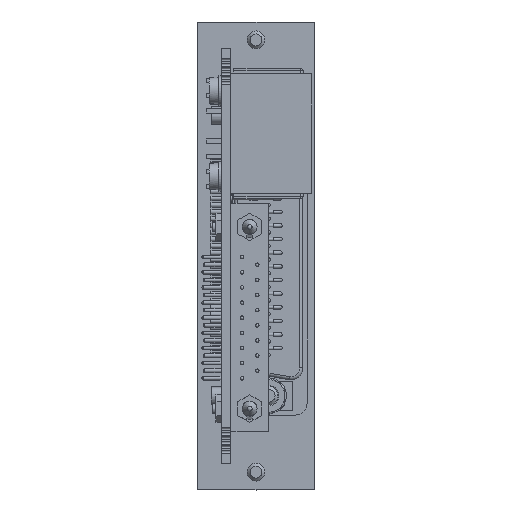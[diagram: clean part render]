
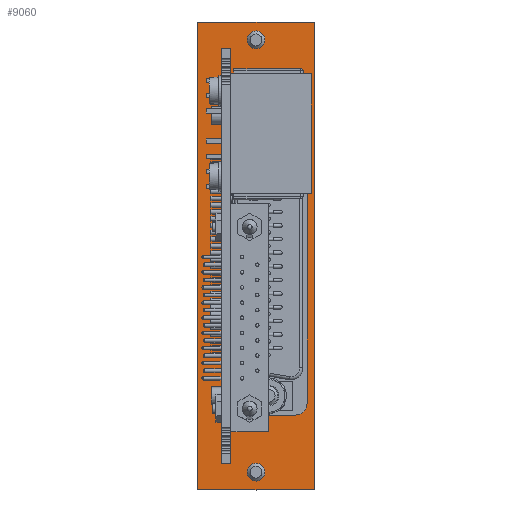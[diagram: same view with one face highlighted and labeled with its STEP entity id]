
A CAD part, front view. The second image highlights one B-rep face of the part: STEP entity #9060.
In plain terms, the highlighted planar face has unit normal (0, -1, 0).
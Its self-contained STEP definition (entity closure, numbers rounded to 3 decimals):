
#9060=ADVANCED_FACE('',(#23295,#23297,#23299,#23301),#23303,.F.);
#23295=FACE_BOUND('',#23296,.T.);
#23296=EDGE_LOOP('',(#34569,#34570,#34571,#34572));
#23297=FACE_BOUND('',#23298,.T.);
#23298=EDGE_LOOP('',(#34573,#34574,#34575,#34576,#34577,#34578,#34579,#34580));
#23299=FACE_BOUND('',#23300,.T.);
#23300=EDGE_LOOP('',(#34581));
#23301=FACE_BOUND('',#23302,.T.);
#23302=EDGE_LOOP('',(#34582));
#23303=PLANE('',#23304);
#23304=AXIS2_PLACEMENT_3D('',#23305,#23306,#23307);
#23305=CARTESIAN_POINT('',(0.,0.,0.));
#23306=DIRECTION('',(0.,1.,0.));
#23307=DIRECTION('',(-1.,0.,0.));
#34569=ORIENTED_EDGE('',*,*,#39264,.F.);
#34570=ORIENTED_EDGE('',*,*,#39272,.F.);
#34571=ORIENTED_EDGE('',*,*,#39269,.F.);
#34572=ORIENTED_EDGE('',*,*,#39267,.F.);
#34573=ORIENTED_EDGE('',*,*,#40312,.F.);
#34574=ORIENTED_EDGE('',*,*,#40313,.F.);
#34575=ORIENTED_EDGE('',*,*,#40314,.F.);
#34576=ORIENTED_EDGE('',*,*,#40315,.F.);
#34577=ORIENTED_EDGE('',*,*,#40316,.F.);
#34578=ORIENTED_EDGE('',*,*,#40317,.F.);
#34579=ORIENTED_EDGE('',*,*,#40318,.F.);
#34580=ORIENTED_EDGE('',*,*,#40319,.F.);
#34581=ORIENTED_EDGE('',*,*,#40320,.T.);
#34582=ORIENTED_EDGE('',*,*,#40321,.T.);
#39264=EDGE_CURVE('',#44573,#44574,#44575,.T.);
#39267=EDGE_CURVE('',#44574,#44578,#44579,.T.);
#39269=EDGE_CURVE('',#44578,#44581,#44582,.T.);
#39272=EDGE_CURVE('',#44581,#44573,#44586,.T.);
#40312=EDGE_CURVE('',#46153,#46154,#46155,.T.);
#40313=EDGE_CURVE('',#46156,#46153,#46157,.F.);
#40314=EDGE_CURVE('',#46158,#46156,#46159,.F.);
#40315=EDGE_CURVE('',#46160,#46158,#46161,.F.);
#40316=EDGE_CURVE('',#46162,#46160,#46163,.T.);
#40317=EDGE_CURVE('',#46164,#46162,#46165,.F.);
#40318=EDGE_CURVE('',#46166,#46164,#46167,.F.);
#40319=EDGE_CURVE('',#46154,#46166,#46168,.F.);
#40320=EDGE_CURVE('',#46169,#46169,#46170,.F.);
#40321=EDGE_CURVE('',#46171,#46171,#46172,.F.);
#44573=VERTEX_POINT('',#56968);
#44574=VERTEX_POINT('',#56969);
#44575=LINE('',#56970,#56971);
#44578=VERTEX_POINT('',#56979);
#44579=LINE('',#56980,#56981);
#44581=VERTEX_POINT('',#56986);
#44582=LINE('',#56987,#56988);
#44586=LINE('',#56998,#56999);
#46153=VERTEX_POINT('',#61014);
#46154=VERTEX_POINT('',#61015);
#46155=CIRCLE('',#61016,2.);
#46156=VERTEX_POINT('',#61020);
#46157=LINE('',#61021,#61022);
#46158=VERTEX_POINT('',#61024);
#46159=CIRCLE('',#61025,2.);
#46160=VERTEX_POINT('',#61029);
#46161=LINE('',#61030,#61031);
#46162=VERTEX_POINT('',#61033);
#46163=CIRCLE('',#61034,2.);
#46164=VERTEX_POINT('',#61038);
#46165=LINE('',#61039,#61040);
#46166=VERTEX_POINT('',#61042);
#46167=CIRCLE('',#61043,2.);
#46168=LINE('',#61047,#61048);
#46169=VERTEX_POINT('',#61050);
#46170=CIRCLE('',#61051,1.229);
#46171=VERTEX_POINT('',#61055);
#46172=CIRCLE('',#61056,1.229);
#56968=CARTESIAN_POINT('',(0.,0.,0.));
#56969=CARTESIAN_POINT('',(-19.6,0.,0.));
#56970=CARTESIAN_POINT('',(0.,0.,0.));
#56971=VECTOR('',#56972,1.);
#56972=DIRECTION('',(-1.,0.,0.));
#56979=CARTESIAN_POINT('',(-19.6,0.,78.5));
#56980=CARTESIAN_POINT('',(-19.6,0.,0.));
#56981=VECTOR('',#56982,1.);
#56982=DIRECTION('',(0.,0.,1.));
#56986=CARTESIAN_POINT('',(0.,0.,78.5));
#56987=CARTESIAN_POINT('',(-19.6,0.,78.5));
#56988=VECTOR('',#56989,1.);
#56989=DIRECTION('',(1.,0.,0.));
#56998=CARTESIAN_POINT('',(0.,0.,78.5));
#56999=VECTOR('',#57000,1.);
#57000=DIRECTION('',(0.,0.,-1.));
#61014=CARTESIAN_POINT('',(-12.165,0.,65.99));
#61015=CARTESIAN_POINT('',(-14.165,0.,63.99));
#61016=AXIS2_PLACEMENT_3D('',#61017,#61018,#61019);
#61017=CARTESIAN_POINT('',(-12.165,0.,63.99));
#61018=DIRECTION('',(0.,-1.,0.));
#61019=DIRECTION('',(0.,0.,1.));
#61020=CARTESIAN_POINT('',(-3.235,0.,65.99));
#61021=CARTESIAN_POINT('',(-12.165,0.,65.99));
#61022=VECTOR('',#61023,1.);
#61023=DIRECTION('',(1.,0.,0.));
#61024=CARTESIAN_POINT('',(-1.235,0.,63.99));
#61025=AXIS2_PLACEMENT_3D('',#61026,#61027,#61028);
#61026=CARTESIAN_POINT('',(-3.235,0.,63.99));
#61027=DIRECTION('',(0.,1.,0.));
#61028=DIRECTION('',(0.,0.,1.));
#61029=CARTESIAN_POINT('',(-1.235,0.,14.57));
#61030=CARTESIAN_POINT('',(-1.235,0.,63.99));
#61031=VECTOR('',#61032,1.);
#61032=DIRECTION('',(0.,0.,-1.));
#61033=CARTESIAN_POINT('',(-3.235,0.,12.57));
#61034=AXIS2_PLACEMENT_3D('',#61035,#61036,#61037);
#61035=CARTESIAN_POINT('',(-3.235,0.,14.57));
#61036=DIRECTION('',(0.,-1.,0.));
#61037=DIRECTION('',(0.,0.,-1.));
#61038=CARTESIAN_POINT('',(-12.165,0.,12.57));
#61039=CARTESIAN_POINT('',(-3.235,0.,12.57));
#61040=VECTOR('',#61041,1.);
#61041=DIRECTION('',(-1.,0.,0.));
#61042=CARTESIAN_POINT('',(-14.165,0.,14.57));
#61043=AXIS2_PLACEMENT_3D('',#61044,#61045,#61046);
#61044=CARTESIAN_POINT('',(-12.165,0.,14.57));
#61045=DIRECTION('',(0.,1.,0.));
#61046=DIRECTION('',(0.,0.,-1.));
#61047=CARTESIAN_POINT('',(-14.165,0.,14.57));
#61048=VECTOR('',#61049,1.);
#61049=DIRECTION('',(0.,0.,1.));
#61050=CARTESIAN_POINT('',(-8.571,0.,3.));
#61051=AXIS2_PLACEMENT_3D('',#61052,#61053,#61054);
#61052=CARTESIAN_POINT('',(-9.8,0.,3.));
#61053=DIRECTION('',(0.,-1.,0.));
#61054=DIRECTION('',(1.,0.,0.));
#61055=CARTESIAN_POINT('',(-8.571,0.,75.5));
#61056=AXIS2_PLACEMENT_3D('',#61057,#61058,#61059);
#61057=CARTESIAN_POINT('',(-9.8,0.,75.5));
#61058=DIRECTION('',(0.,-1.,0.));
#61059=DIRECTION('',(1.,0.,0.));
